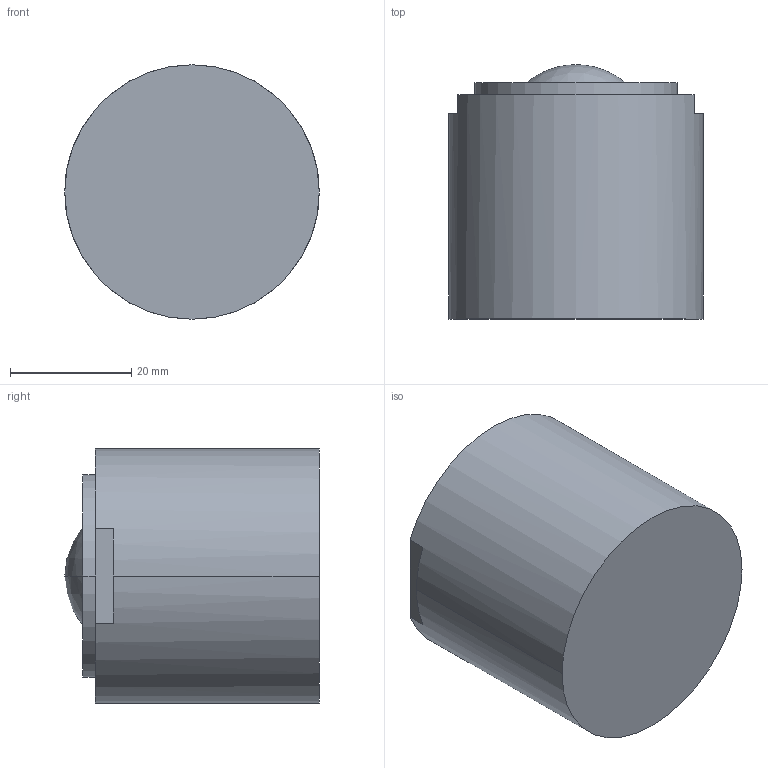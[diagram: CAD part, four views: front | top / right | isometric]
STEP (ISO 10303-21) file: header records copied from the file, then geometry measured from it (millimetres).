
FILE_DESCRIPTION (( 'STEP AP203' ), '1' );
FILE_NAME ('pv80c.STEP', '2015-06-07T15:32:53', ( '' ), ( '' ), 'SwSTEP 2.0', 'SolidWorks 2015', '' );
FILE_SCHEMA (( 'CONFIG_CONTROL_DESIGN' ));
Length unit declared in the file: millimetre
Products named in the file (1): pv80c
Bounding box: 42 x 42 x 42 mm (x, y, z)
Volume: 53250.3 mm3; surface area: 7888.8 mm2
Topology: 1 solids, 1 shells, 13 faces, 28 edges, 19 vertices
Faces by surface type: plane 7, cylinder 4, sphere 2
Entity records: 443 total; most frequent: DIRECTION 72, CARTESIAN_POINT 61, ORIENTED_EDGE 56, AXIS2_PLACEMENT_3D 30, EDGE_CURVE 28, VERTEX_POINT 19, CIRCLE 16, EDGE_LOOP 15
